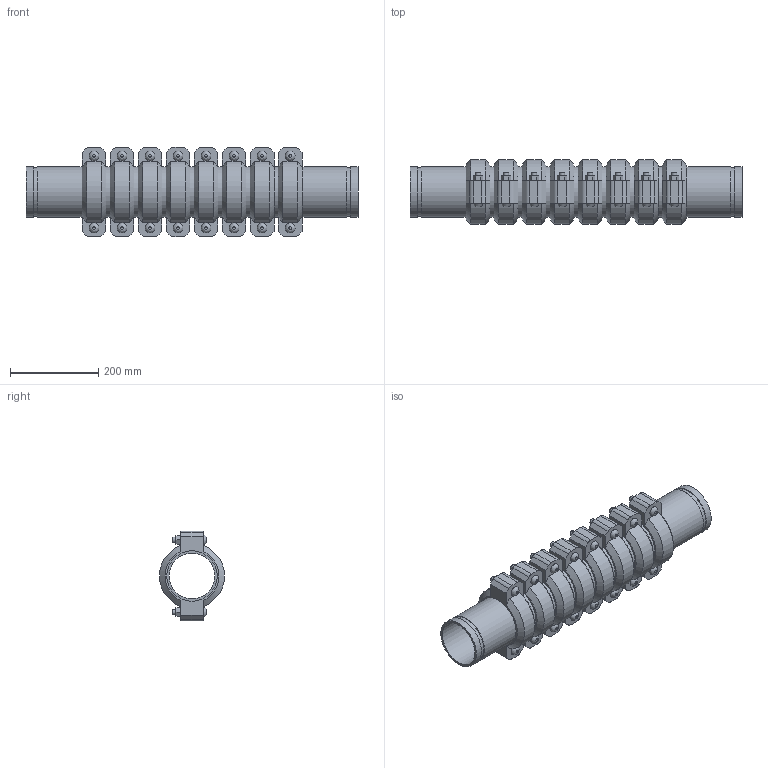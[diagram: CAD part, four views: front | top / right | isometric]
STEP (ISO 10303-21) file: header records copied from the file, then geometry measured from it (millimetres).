
FILE_DESCRIPTION(/* description */ ('VIC SS EXPANSION JOINT 8 COUPLINGS NEUTRAL STYLE 155P (OGS) (POTABLE WATER) ','CAx-IF Rec.Pracs.---Representation and Presentation of Product Manufacturing Information (PMI)---4.0---2014-10-13'),/* implementation_level */ '2;1');
FILE_NAME(/* name */ 'C:\Users\kkamble\AppData\Roaming\Autodesk\ApplicationPlugins\Victaulic.Temp\A279\Victaulic_SS_Expansion Joint_Neutral_8 Couplings_Style 155P (OGS)-Potable Water_8 Coup_Neut_4 (100).stp',/* time_stamp */ '2021-07-16T16:38:44+05:00',/* author */ ('kkamble'),/* organization */ ('Victaulic'),/* preprocessor_version */ 'ST-DEVELOPER v17.2',/* originating_system */ 'Autodesk Inventor 2019',/* authorisation */ '');
FILE_SCHEMA (('AP242_MANAGED_MODEL_BASED_3D_ENGINEERING_MIM_LF { 1 0 10303 442 1 1 4 }'));
Length unit declared in the file: inch
Products named in the file (4): 155P-04.0; Nipple-04.0; Nipple-04.0_1; 075-04.0
Assembly tree (17 placements, depth 2):
  155P-04.0
    Nipple-04.0  x2
    Nipple-04.0_1  x7
    075-04.0  x8
Bounding box: 752.6 x 147.32 x 203.96 mm (x, y, z)
Volume: 5026629.2 mm3; surface area: 1179314.1 mm2
Topology: 17 solids, 33 shells, 564 faces, 1334 edges, 936 vertices
Faces by surface type: plane 342, cylinder 174, cone 32, bspline 16
Full cylindrical faces by diameter (mm): 12.7 x32, 14.605 x16, 103.988 x9, 107.95 x8, 110.084 x18, 114.3 x43
Entity records: 2849 total; most frequent: CARTESIAN_POINT 501, DIRECTION 477, ORIENTED_EDGE 386, EDGE_CURVE 193, AXIS2_PLACEMENT_3D 192, VERTEX_POINT 138, EDGE_LOOP 107, LINE 93
